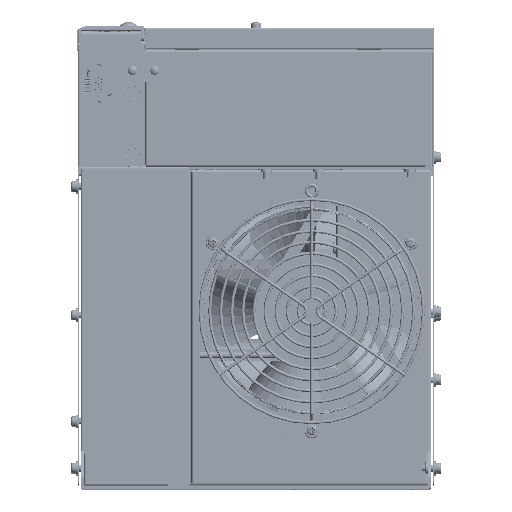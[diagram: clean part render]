
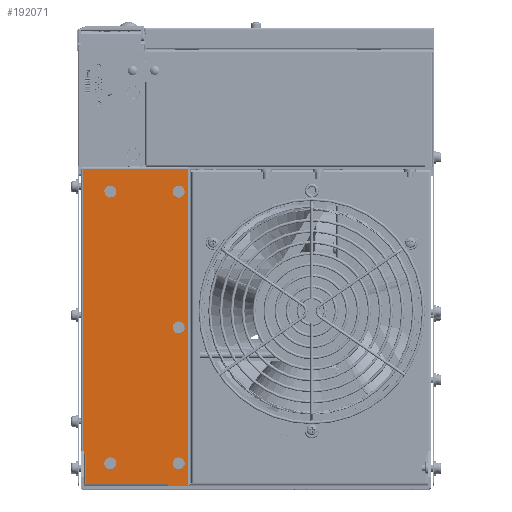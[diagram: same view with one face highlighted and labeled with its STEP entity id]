
A CAD part, top view. The second image highlights one B-rep face of the part: STEP entity #192071.
In plain terms, the highlighted planar face has unit normal (0, 0, 1).
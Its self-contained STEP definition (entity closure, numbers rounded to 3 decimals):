
#190305=DIRECTION('',(0.,1.,0.));
#190306=VECTOR('',#190305,2.);
#190307=CARTESIAN_POINT('',(-115.7,23.2,260.));
#190308=LINE('',#190307,#190306);
#190312=DIRECTION('',(1.,0.,0.));
#190313=VECTOR('',#190312,0.9);
#190314=CARTESIAN_POINT('',(-116.6,25.2,260.));
#190315=LINE('',#190314,#190313);
#190319=DIRECTION('',(0.,1.,0.));
#190320=VECTOR('',#190319,213.1);
#190321=CARTESIAN_POINT('',(-45.5,2.,260.));
#190322=LINE('',#190321,#190320);
#190326=DIRECTION('',(1.,0.,0.));
#190327=VECTOR('',#190326,13.7);
#190328=CARTESIAN_POINT('',(-59.2,2.,260.));
#190329=LINE('',#190328,#190327);
#190333=DIRECTION('',(0.,-1.,0.));
#190334=VECTOR('',#190333,1.4);
#190335=CARTESIAN_POINT('',(-59.2,3.4,260.));
#190336=LINE('',#190335,#190334);
#190340=DIRECTION('',(-1.,0.,0.));
#190341=VECTOR('',#190340,1.4);
#190342=CARTESIAN_POINT('',(-114.3,23.2,260.));
#190343=LINE('',#190342,#190341);
#190347=CARTESIAN_POINT('',(-52.,199.8,260.));
#190348=DIRECTION('',(0.,0.,-1.));
#190349=DIRECTION('',(-1.,0.,0.));
#190350=AXIS2_PLACEMENT_3D('',#190347,#190348,#190349);
#190355=CARTESIAN_POINT('',(-52.,199.8,260.));
#190356=DIRECTION('',(0.,0.,-1.));
#190357=DIRECTION('',(1.,0.,0.));
#190358=AXIS2_PLACEMENT_3D('',#190355,#190356,#190357);
#190363=CARTESIAN_POINT('',(-52.,17.,260.));
#190364=DIRECTION('',(0.,0.,-1.));
#190365=DIRECTION('',(-1.,0.,0.));
#190366=AXIS2_PLACEMENT_3D('',#190363,#190364,#190365);
#190371=CARTESIAN_POINT('',(-52.,17.,260.));
#190372=DIRECTION('',(0.,0.,-1.));
#190373=DIRECTION('',(1.,0.,0.));
#190374=AXIS2_PLACEMENT_3D('',#190371,#190372,#190373);
#190379=CARTESIAN_POINT('',(-52.,108.4,260.));
#190380=DIRECTION('',(0.,0.,-1.));
#190381=DIRECTION('',(-1.,0.,0.));
#190382=AXIS2_PLACEMENT_3D('',#190379,#190380,#190381);
#190387=CARTESIAN_POINT('',(-52.,108.4,260.));
#190388=DIRECTION('',(0.,0.,-1.));
#190389=DIRECTION('',(1.,0.,0.));
#190390=AXIS2_PLACEMENT_3D('',#190387,#190388,#190389);
#190395=CARTESIAN_POINT('',(-98.,17.,260.));
#190396=DIRECTION('',(0.,0.,-1.));
#190397=DIRECTION('',(-1.,0.,0.));
#190398=AXIS2_PLACEMENT_3D('',#190395,#190396,#190397);
#190403=CARTESIAN_POINT('',(-98.,17.,260.));
#190404=DIRECTION('',(0.,0.,-1.));
#190405=DIRECTION('',(1.,0.,0.));
#190406=AXIS2_PLACEMENT_3D('',#190403,#190404,#190405);
#190411=CARTESIAN_POINT('',(-98.,199.8,260.));
#190412=DIRECTION('',(0.,0.,-1.));
#190413=DIRECTION('',(-1.,0.,0.));
#190414=AXIS2_PLACEMENT_3D('',#190411,#190412,#190413);
#190419=CARTESIAN_POINT('',(-98.,199.8,260.));
#190420=DIRECTION('',(0.,0.,-1.));
#190421=DIRECTION('',(1.,0.,0.));
#190422=AXIS2_PLACEMENT_3D('',#190419,#190420,#190421);
#190449=DIRECTION('',(0.,1.,0.));
#190450=VECTOR('',#190449,189.9);
#190451=CARTESIAN_POINT('',(-116.6,25.2,260.));
#190452=LINE('',#190451,#190450);
#190929=DIRECTION('',(1.,0.,0.));
#190930=VECTOR('',#190929,71.1);
#190931=CARTESIAN_POINT('',(-116.6,215.1,260.));
#190932=LINE('',#190931,#190930);
#191015=DIRECTION('',(-1.,0.,0.));
#191016=VECTOR('',#191015,55.1);
#191017=CARTESIAN_POINT('',(-59.2,3.4,260.));
#191018=LINE('',#191017,#191016);
#191279=DIRECTION('',(0.,1.,0.));
#191280=VECTOR('',#191279,19.8);
#191281=CARTESIAN_POINT('',(-114.3,3.4,260.));
#191282=LINE('',#191281,#191280);
#191682=CARTESIAN_POINT('',(-45.5,2.,260.));
#191684=VERTEX_POINT('',#191682);
#191686=CARTESIAN_POINT('',(-115.7,25.2,260.));
#191688=VERTEX_POINT('',#191686);
#191693=CARTESIAN_POINT('',(-59.2,3.4,260.));
#191694=CARTESIAN_POINT('',(-59.2,2.,260.));
#191695=VERTEX_POINT('',#191693);
#191696=VERTEX_POINT('',#191694);
#191717=CARTESIAN_POINT('',(-45.5,215.1,260.));
#191718=VERTEX_POINT('',#191717);
#191731=CARTESIAN_POINT('',(-116.6,215.1,260.));
#191732=VERTEX_POINT('',#191731);
#191739=CARTESIAN_POINT('',(-116.6,25.2,260.));
#191740=VERTEX_POINT('',#191739);
#191751=CARTESIAN_POINT('',(-114.3,3.4,260.));
#191752=VERTEX_POINT('',#191751);
#191757=CARTESIAN_POINT('',(-114.3,23.2,260.));
#191758=CARTESIAN_POINT('',(-115.7,23.2,260.));
#191759=VERTEX_POINT('',#191757);
#191760=VERTEX_POINT('',#191758);
#191801=CARTESIAN_POINT('',(-55.85,199.8,260.));
#191802=CARTESIAN_POINT('',(-48.15,199.8,260.));
#191803=VERTEX_POINT('',#191801);
#191804=VERTEX_POINT('',#191802);
#191813=CARTESIAN_POINT('',(-55.85,17.,260.));
#191814=CARTESIAN_POINT('',(-48.15,17.,260.));
#191815=VERTEX_POINT('',#191813);
#191816=VERTEX_POINT('',#191814);
#191841=CARTESIAN_POINT('',(-55.85,108.4,260.));
#191842=CARTESIAN_POINT('',(-48.15,108.4,260.));
#191843=VERTEX_POINT('',#191841);
#191844=VERTEX_POINT('',#191842);
#191909=CARTESIAN_POINT('',(-101.85,17.,260.));
#191910=CARTESIAN_POINT('',(-94.15,17.,260.));
#191911=VERTEX_POINT('',#191909);
#191912=VERTEX_POINT('',#191910);
#191921=CARTESIAN_POINT('',(-101.85,199.8,260.));
#191922=CARTESIAN_POINT('',(-94.15,199.8,260.));
#191923=VERTEX_POINT('',#191921);
#191924=VERTEX_POINT('',#191922);
#192016=CARTESIAN_POINT('',(0.,0.,260.));
#192017=DIRECTION('',(0.,0.,1.));
#192018=DIRECTION('',(1.,0.,0.));
#192019=AXIS2_PLACEMENT_3D('',#192016,#192017,#192018);
#192020=PLANE('',#192019);
#192021=ORIENTED_EDGE('',*,*,#191997,.T.);
#192023=ORIENTED_EDGE('',*,*,#192022,.F.);
#192025=ORIENTED_EDGE('',*,*,#192024,.T.);
#192027=ORIENTED_EDGE('',*,*,#192026,.T.);
#192029=ORIENTED_EDGE('',*,*,#192028,.F.);
#192031=ORIENTED_EDGE('',*,*,#192030,.F.);
#192033=ORIENTED_EDGE('',*,*,#192032,.F.);
#192035=ORIENTED_EDGE('',*,*,#192034,.T.);
#192037=ORIENTED_EDGE('',*,*,#192036,.T.);
#192038=ORIENTED_EDGE('',*,*,#192009,.T.);
#192039=EDGE_LOOP('',(#192021,#192023,#192025,#192027,#192029,#192031,#192033,
#192035,#192037,#192038));
#192040=FACE_OUTER_BOUND('',#192039,.F.);
#192042=ORIENTED_EDGE('',*,*,#192041,.F.);
#192044=ORIENTED_EDGE('',*,*,#192043,.F.);
#192045=EDGE_LOOP('',(#192042,#192044));
#192046=FACE_BOUND('',#192045,.F.);
#192048=ORIENTED_EDGE('',*,*,#192047,.F.);
#192050=ORIENTED_EDGE('',*,*,#192049,.F.);
#192051=EDGE_LOOP('',(#192048,#192050));
#192052=FACE_BOUND('',#192051,.F.);
#192054=ORIENTED_EDGE('',*,*,#192053,.F.);
#192056=ORIENTED_EDGE('',*,*,#192055,.F.);
#192057=EDGE_LOOP('',(#192054,#192056));
#192058=FACE_BOUND('',#192057,.F.);
#192060=ORIENTED_EDGE('',*,*,#192059,.F.);
#192062=ORIENTED_EDGE('',*,*,#192061,.F.);
#192063=EDGE_LOOP('',(#192060,#192062));
#192064=FACE_BOUND('',#192063,.F.);
#192066=ORIENTED_EDGE('',*,*,#192065,.F.);
#192068=ORIENTED_EDGE('',*,*,#192067,.F.);
#192069=EDGE_LOOP('',(#192066,#192068));
#192070=FACE_BOUND('',#192069,.F.);
#190351=CIRCLE('',#190350,3.85);
#190359=CIRCLE('',#190358,3.85);
#190367=CIRCLE('',#190366,3.85);
#190375=CIRCLE('',#190374,3.85);
#190383=CIRCLE('',#190382,3.85);
#190391=CIRCLE('',#190390,3.85);
#190399=CIRCLE('',#190398,3.85);
#190407=CIRCLE('',#190406,3.85);
#190415=CIRCLE('',#190414,3.85);
#190423=CIRCLE('',#190422,3.85);
#191997=EDGE_CURVE('',#191760,#191688,#190308,.T.);
#192009=EDGE_CURVE('',#191759,#191760,#190343,.T.);
#192022=EDGE_CURVE('',#191740,#191688,#190315,.T.);
#192024=EDGE_CURVE('',#191740,#191732,#190452,.T.);
#192026=EDGE_CURVE('',#191732,#191718,#190932,.T.);
#192028=EDGE_CURVE('',#191684,#191718,#190322,.T.);
#192030=EDGE_CURVE('',#191696,#191684,#190329,.T.);
#192032=EDGE_CURVE('',#191695,#191696,#190336,.T.);
#192034=EDGE_CURVE('',#191695,#191752,#191018,.T.);
#192036=EDGE_CURVE('',#191752,#191759,#191282,.T.);
#192041=EDGE_CURVE('',#191803,#191804,#190351,.T.);
#192043=EDGE_CURVE('',#191804,#191803,#190359,.T.);
#192047=EDGE_CURVE('',#191815,#191816,#190367,.T.);
#192049=EDGE_CURVE('',#191816,#191815,#190375,.T.);
#192053=EDGE_CURVE('',#191843,#191844,#190383,.T.);
#192055=EDGE_CURVE('',#191844,#191843,#190391,.T.);
#192059=EDGE_CURVE('',#191911,#191912,#190399,.T.);
#192061=EDGE_CURVE('',#191912,#191911,#190407,.T.);
#192065=EDGE_CURVE('',#191923,#191924,#190415,.T.);
#192067=EDGE_CURVE('',#191924,#191923,#190423,.T.);
#192071=ADVANCED_FACE('',(#192040,#192046,#192052,#192058,#192064,#192070),
#192020,.T.);
